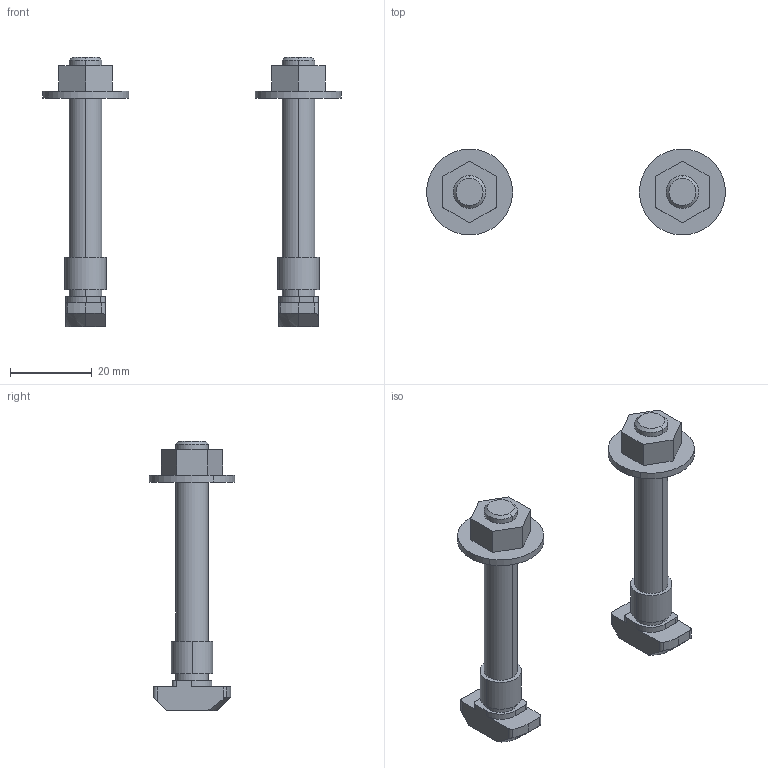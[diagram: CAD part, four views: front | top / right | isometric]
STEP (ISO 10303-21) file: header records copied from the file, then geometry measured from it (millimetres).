
FILE_DESCRIPTION (( 'STEP AP203' ), '1' );
FILE_NAME ('75000036-ASMEL-100.STEP', '2016-11-22T10:43:00', ( '' ), ( '' ), 'SwSTEP 2.0', 'SolidWorks 2015', '' );
FILE_SCHEMA (( 'CONFIG_CONTROL_DESIGN' ));
Length unit declared in the file: millimetre
Products named in the file (1): 75000036-ASMEL-100
Bounding box: 73 x 21 x 65.8 mm (x, y, z)
Volume: 10669.9 mm3; surface area: 6857.9 mm2
Topology: 2 solids, 2 shells, 100 faces, 246 edges, 160 vertices
Faces by surface type: plane 48, cylinder 44, cone 8
Entity records: 3289 total; most frequent: CARTESIAN_POINT 803, DIRECTION 508, ORIENTED_EDGE 492, EDGE_CURVE 246, AXIS2_PLACEMENT_3D 181, VERTEX_POINT 160, LINE 146, VECTOR 146
